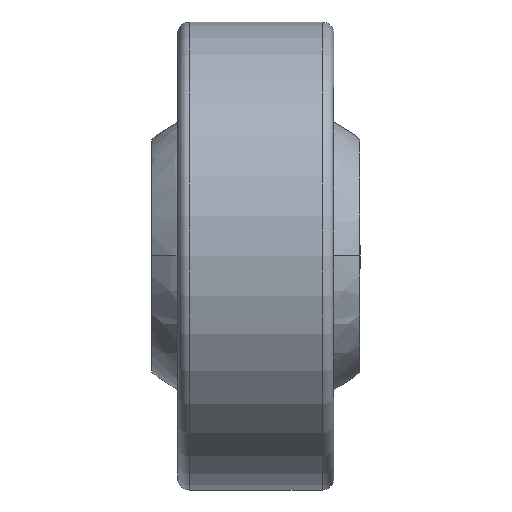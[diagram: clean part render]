
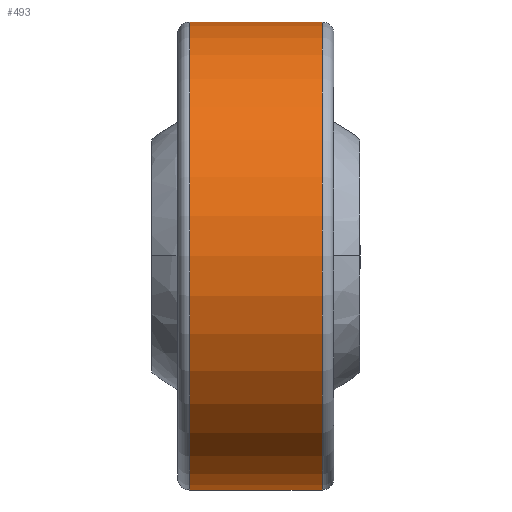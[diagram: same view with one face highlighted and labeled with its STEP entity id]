
A CAD part, top view. The second image highlights one B-rep face of the part: STEP entity #493.
In plain terms, the highlighted cylindrical face has radius 9 mm (diameter 18 mm), a partial arc.
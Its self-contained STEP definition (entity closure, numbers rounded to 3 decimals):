
#63 = ORIENTED_EDGE ( 'NONE', *, *, #128, .T. ) ;
#128 = EDGE_CURVE ( 'NONE', #327, #517, #1006, .T. ) ;
#129 = B_SPLINE_CURVE_WITH_KNOTS ( 'NONE', 3,
 ( #2079, #574, #370, #2671, #617, #2090, #1206, #210, #199, #2506 ),
 .UNSPECIFIED., .F., .F.,
 ( 4, 2, 2, 2, 4 ),
 ( 0., 0.001, 0.003, 0.004, 0.005 ),
 .UNSPECIFIED. ) ;
#199 = CARTESIAN_POINT ( 'NONE',  ( 2.179, -3.721, -8.199 ) ) ;
#210 = CARTESIAN_POINT ( 'NONE',  ( 1.768, -3.913, -8.106 ) ) ;
#240 = CARTESIAN_POINT ( 'NONE',  ( 1.777, 3.91, -8.108 ) ) ;
#242 = VERTEX_POINT ( 'NONE', #1882 ) ;
#248 = AXIS2_PLACEMENT_3D ( 'NONE', #2047, #1833, #2060 ) ;
#275 = EDGE_CURVE ( 'NONE', #242, #327, #2317, .T. ) ;
#312 = DIRECTION ( 'NONE',  ( 0., 0., -1. ) ) ;
#317 = CARTESIAN_POINT ( 'NONE',  ( -2.179, 3.721, -8.199 ) ) ;
#327 = VERTEX_POINT ( 'NONE', #1562 ) ;
#359 = CARTESIAN_POINT ( 'NONE',  ( -3., 0., 0. ) ) ;
#370 = CARTESIAN_POINT ( 'NONE',  ( -1.777, -3.91, -8.108 ) ) ;
#372 = CYLINDRICAL_SURFACE ( 'NONE', #2700, 9. ) ;
#493 = ADVANCED_FACE ( 'NONE', ( #1807 ), #372, .T. ) ;
#509 = DIRECTION ( 'NONE',  ( 0., 0., -1. ) ) ;
#517 = VERTEX_POINT ( 'NONE', #1011 ) ;
#524 = ORIENTED_EDGE ( 'NONE', *, *, #1416, .T. ) ;
#540 = CARTESIAN_POINT ( 'NONE',  ( -2.55, 3.473, -8.303 ) ) ;
#574 = CARTESIAN_POINT ( 'NONE',  ( -2.179, -3.721, -8.199 ) ) ;
#617 = CARTESIAN_POINT ( 'NONE',  ( -0.452, -4.238, -7.94 ) ) ;
#676 = VERTEX_POINT ( 'NONE', #1555 ) ;
#739 = CARTESIAN_POINT ( 'NONE',  ( -1.768, 3.913, -8.106 ) ) ;
#887 = CARTESIAN_POINT ( 'NONE',  ( -0.452, 4.238, -7.94 ) ) ;
#1006 = CIRCLE ( 'NONE', #248, 9. ) ;
#1011 = CARTESIAN_POINT ( 'NONE',  ( -2.55, -3.473, -8.303 ) ) ;
#1085 = CARTESIAN_POINT ( 'NONE',  ( 0.91, 4.171, -7.976 ) ) ;
#1126 = ORIENTED_EDGE ( 'NONE', *, *, #2264, .T. ) ;
#1172 = CIRCLE ( 'NONE', #2007, 9. ) ;
#1206 = CARTESIAN_POINT ( 'NONE',  ( 0.91, -4.171, -7.977 ) ) ;
#1416 = EDGE_CURVE ( 'NONE', #676, #242, #1172, .T. ) ;
#1550 = CARTESIAN_POINT ( 'NONE',  ( 2.55, 0., 0. ) ) ;
#1555 = CARTESIAN_POINT ( 'NONE',  ( 2.55, -3.473, -8.303 ) ) ;
#1562 = CARTESIAN_POINT ( 'NONE',  ( -2.55, 3.473, -8.303 ) ) ;
#1604 = DIRECTION ( 'NONE',  ( 1., 0., 0. ) ) ;
#1711 = CARTESIAN_POINT ( 'NONE',  ( -0.91, 4.171, -7.977 ) ) ;
#1807 = FACE_OUTER_BOUND ( 'NONE', #2181, .T. ) ;
#1833 = DIRECTION ( 'NONE',  ( 1., 0., 0. ) ) ;
#1882 = CARTESIAN_POINT ( 'NONE',  ( 2.55, 3.473, -8.303 ) ) ;
#1909 = CARTESIAN_POINT ( 'NONE',  ( 0.452, 4.238, -7.94 ) ) ;
#2007 = AXIS2_PLACEMENT_3D ( 'NONE', #1550, #2395, #509 ) ;
#2047 = CARTESIAN_POINT ( 'NONE',  ( -2.55, 0., 0. ) ) ;
#2060 = DIRECTION ( 'NONE',  ( 0., 0., -1. ) ) ;
#2079 = CARTESIAN_POINT ( 'NONE',  ( -2.55, -3.473, -8.303 ) ) ;
#2090 = CARTESIAN_POINT ( 'NONE',  ( 0.452, -4.238, -7.94 ) ) ;
#2120 = CARTESIAN_POINT ( 'NONE',  ( 2.179, 3.721, -8.199 ) ) ;
#2181 = EDGE_LOOP ( 'NONE', ( #2431, #63, #1126, #524 ) ) ;
#2264 = EDGE_CURVE ( 'NONE', #517, #676, #129, .T. ) ;
#2317 = B_SPLINE_CURVE_WITH_KNOTS ( 'NONE', 3,
 ( #2330, #2120, #240, #1085, #1909, #887, #1711, #739, #317, #540 ),
 .UNSPECIFIED., .F., .F.,
 ( 4, 2, 2, 2, 4 ),
 ( 0., 0.001, 0.003, 0.004, 0.005 ),
 .UNSPECIFIED. ) ;
#2330 = CARTESIAN_POINT ( 'NONE',  ( 2.55, 3.473, -8.303 ) ) ;
#2395 = DIRECTION ( 'NONE',  ( -1., 0., 0. ) ) ;
#2431 = ORIENTED_EDGE ( 'NONE', *, *, #275, .T. ) ;
#2506 = CARTESIAN_POINT ( 'NONE',  ( 2.55, -3.473, -8.303 ) ) ;
#2671 = CARTESIAN_POINT ( 'NONE',  ( -0.91, -4.171, -7.976 ) ) ;
#2700 = AXIS2_PLACEMENT_3D ( 'NONE', #359, #1604, #312 ) ;
